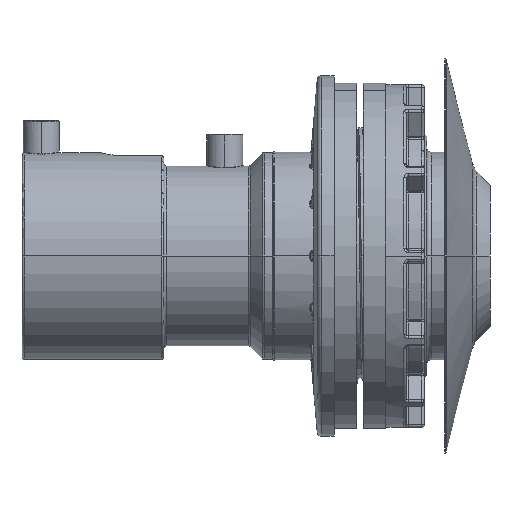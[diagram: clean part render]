
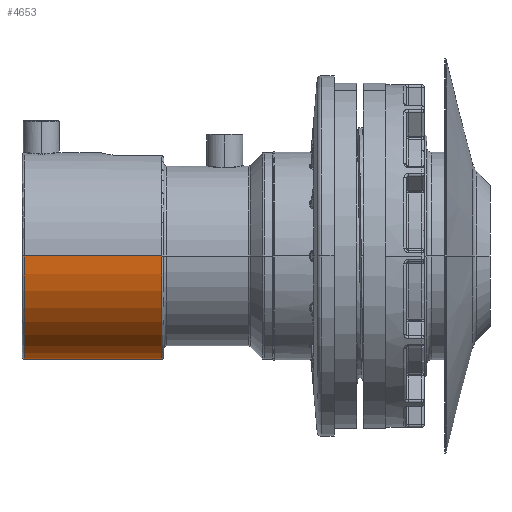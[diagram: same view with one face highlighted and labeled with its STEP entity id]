
A CAD part, left-side view. The second image highlights one B-rep face of the part: STEP entity #4653.
In plain terms, the highlighted cylindrical face has radius 45.9 mm (diameter 91.8 mm), a partial arc.
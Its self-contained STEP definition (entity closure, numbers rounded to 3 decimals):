
#3177 = VERTEX_POINT ( 'NONE', #42652 ) ;
#3178 = VERTEX_POINT ( 'NONE', #42653 ) ;
#3186 = VERTEX_POINT ( 'NONE', #42661 ) ;
#3209 = VERTEX_POINT ( 'NONE', #42684 ) ;
#4653 = ADVANCED_FACE ( 'NONE', ( #6115 ), #6118, .T. ) ;
#6112 = DIRECTION ( 'NONE',  ( 0., 1., 0. ) ) ;
#6115 = FACE_OUTER_BOUND ( 'NONE', #7290, .T. ) ;
#6116 = CARTESIAN_POINT ( 'NONE',  ( 0., 216.44, 0. ) ) ;
#6118 = CYLINDRICAL_SURFACE ( 'NONE', #7707, 45.9 ) ;
#6119 = DIRECTION ( 'NONE',  ( 1., 0., 0. ) ) ;
#7290 = EDGE_LOOP ( 'NONE', ( #16611, #16612, #16613, #16614 ) ) ;
#7707 = AXIS2_PLACEMENT_3D ( 'NONE', #6116, #6112, #6119 ) ;
#12046 = EDGE_CURVE ( 'NONE', #3209, #3186, #24183, .T. ) ;
#12054 = EDGE_CURVE ( 'NONE', #3177, #3186, #30742, .T. ) ;
#12055 = EDGE_CURVE ( 'NONE', #3178, #3209, #30743, .T. ) ;
#16224 = EDGE_CURVE ( 'NONE', #3178, #3177, #18616, .T. ) ;
#16611 = ORIENTED_EDGE ( 'NONE', *, *, #16224, .T. ) ;
#16612 = ORIENTED_EDGE ( 'NONE', *, *, #12054, .T. ) ;
#16613 = ORIENTED_EDGE ( 'NONE', *, *, #12046, .F. ) ;
#16614 = ORIENTED_EDGE ( 'NONE', *, *, #12055, .F. ) ;
#18616 = CIRCLE ( 'NONE', #18619, 45.9 ) ;
#18619 = AXIS2_PLACEMENT_3D ( 'NONE', #24386, #24387, #24388 ) ;
#24174 = VECTOR ( 'NONE', #30755, 1000. ) ;
#24176 = VECTOR ( 'NONE', #30752, 1000. ) ;
#24183 = CIRCLE ( 'NONE', #24184, 45.9 ) ;
#24184 = AXIS2_PLACEMENT_3D ( 'NONE', #30724, #30725, #30726 ) ;
#24386 = CARTESIAN_POINT ( 'NONE',  ( 0., 62.44, 0. ) ) ;
#24387 = DIRECTION ( 'NONE',  ( 0., 1., 0. ) ) ;
#24388 = DIRECTION ( 'NONE',  ( 1., 0., 0. ) ) ;
#30724 = CARTESIAN_POINT ( 'NONE',  ( 0., 123.44, 0. ) ) ;
#30725 = DIRECTION ( 'NONE',  ( 0., 1., 0. ) ) ;
#30726 = DIRECTION ( 'NONE',  ( 1., 0., 0. ) ) ;
#30742 = LINE ( 'NONE', #30750, #24176 ) ;
#30743 = LINE ( 'NONE', #30753, #24174 ) ;
#30750 = CARTESIAN_POINT ( 'NONE',  ( -45.9, 216.44, 0. ) ) ;
#30752 = DIRECTION ( 'NONE',  ( 0., 1., 0. ) ) ;
#30753 = CARTESIAN_POINT ( 'NONE',  ( 45.9, 216.44, 0. ) ) ;
#30755 = DIRECTION ( 'NONE',  ( 0., 1., 0. ) ) ;
#42652 = CARTESIAN_POINT ( 'NONE',  ( -45.9, 62.44, 0. ) ) ;
#42653 = CARTESIAN_POINT ( 'NONE',  ( 45.9, 62.44, 0. ) ) ;
#42661 = CARTESIAN_POINT ( 'NONE',  ( -45.9, 123.44, 0. ) ) ;
#42684 = CARTESIAN_POINT ( 'NONE',  ( 45.9, 123.44, 0. ) ) ;
